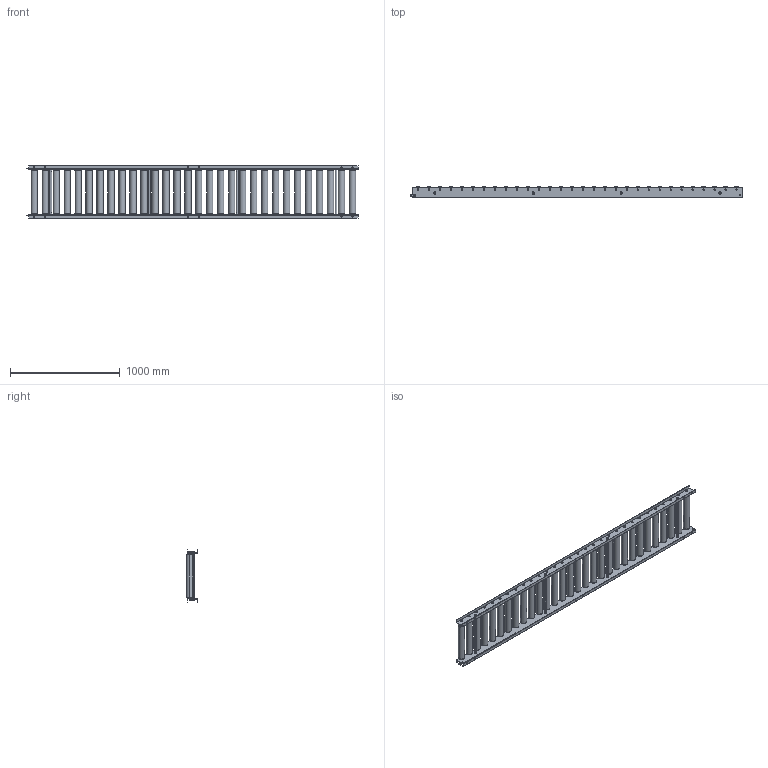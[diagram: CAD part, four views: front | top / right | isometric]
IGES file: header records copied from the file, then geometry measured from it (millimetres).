
Start section: SolidWorks IGES file using analytic representation for surfaces
Global section: file name: C:\Users\0656\Desktop\変換ツール\iges変換\JR-5730.igs; native system: SolidWorks 2023; preprocessor: SolidWorks 2023; author: 0656; date: 240226.152327; units: millimetre
Bounding box: 3025 x 100.1 x 475 mm (x, y, z)
Surface area: 5579508.3 mm2 (no closed solid volume)
Topology: 0 solids, 0 shells, 1280 faces, 26148 edges, 26148 vertices
Faces by surface type: revolution 670, bspline 610
